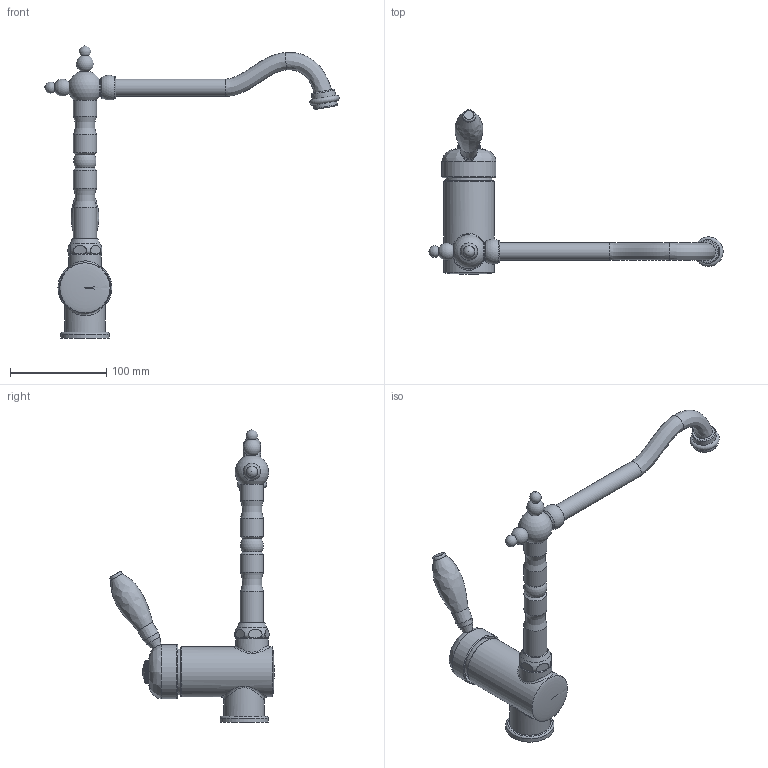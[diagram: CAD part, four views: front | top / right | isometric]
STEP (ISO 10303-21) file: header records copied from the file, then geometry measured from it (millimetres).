
FILE_DESCRIPTION(('STEP AP242'), '1');
FILE_NAME('64F3588ANTKM', '', ('UNSPECIFIED'), ('UNSPECIFIED'), 'ASCON STEP Converter 1.6', 'ASCON Math Kernel', '');
FILE_SCHEMA(('AP242_MANAGED_MODEL_BASED_3D_ENGINEERING_MIM_LF { 1 0 10303 442 1 1 4 }'));
Length unit declared in the file: millimetre
Bounding box: 305.22 x 170.3 x 303 mm (x, y, z)
Volume: 531422.8 mm3; surface area: 84684 mm2
Topology: 6 solids, 6 shells, 226 faces, 583 edges, 377 vertices
Faces by surface type: cylinder 155, plane 27, torus 17, cone 9, bspline 7, sphere 7, revolution 4
Full cylindrical faces by diameter (mm): 3.487 x1, 18 x2, 24.13 x4, 24.73 x2, 34 x1, 42 x1, 50 x1, 52 x1, 53 x1, 56 x1
Entity records: 16752 total; most frequent: CARTESIAN_POINT 9602, DIRECTION 1142, ORIENTED_EDGE 1040, EDGE_CURVE 520, AXIS2_PLACEMENT_3D 499, VERTEX_POINT 371, EDGE_LOOP 289, CIRCLE 283
